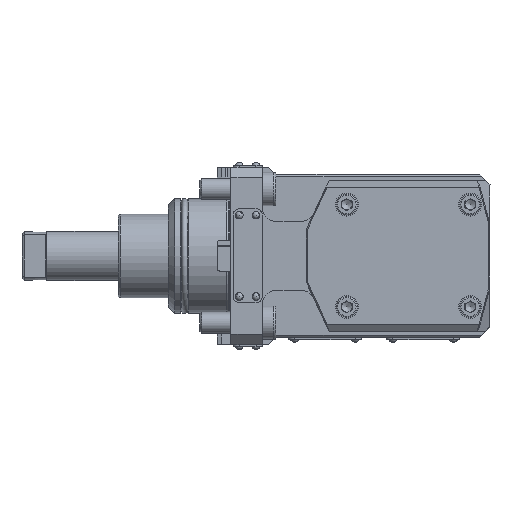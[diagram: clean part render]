
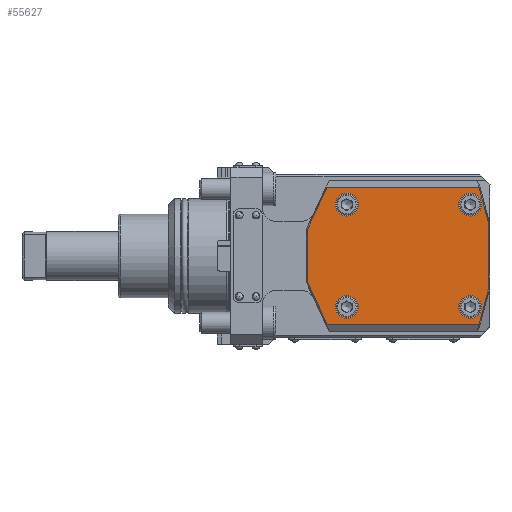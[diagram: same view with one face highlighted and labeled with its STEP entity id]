
A CAD part, top view. The second image highlights one B-rep face of the part: STEP entity #55627.
In plain terms, the highlighted planar face has unit normal (0, 0, 1).
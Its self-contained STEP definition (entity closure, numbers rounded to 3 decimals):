
#21947=VECTOR('',#36456,1.);
#21948=VECTOR('',#36457,1.);
#21949=VECTOR('',#36458,1.);
#21950=VECTOR('',#36459,1.);
#21951=VECTOR('',#36460,1.);
#21952=VECTOR('',#36461,1.);
#21953=VECTOR('',#36462,1.);
#21954=VECTOR('',#36463,1.);
#23282=LINE('',#40973,#21947);
#23283=LINE('',#40975,#21948);
#23284=LINE('',#40977,#21949);
#23285=LINE('',#40979,#21950);
#23286=LINE('',#40981,#21951);
#23287=LINE('',#40983,#21952);
#23288=LINE('',#40985,#21953);
#23289=LINE('',#40986,#21954);
#24617=PLANE('',#53834);
#25275=ORIENTED_EDGE('',*,*,#31728,.F.);
#25276=ORIENTED_EDGE('',*,*,#31729,.F.);
#25277=ORIENTED_EDGE('',*,*,#31730,.F.);
#25278=ORIENTED_EDGE('',*,*,#31731,.F.);
#25279=ORIENTED_EDGE('',*,*,#31732,.F.);
#25280=ORIENTED_EDGE('',*,*,#31733,.F.);
#25281=ORIENTED_EDGE('',*,*,#31734,.F.);
#25282=ORIENTED_EDGE('',*,*,#31735,.F.);
#25283=ORIENTED_EDGE('',*,*,#31726,.F.);
#25284=ORIENTED_EDGE('',*,*,#31736,.F.);
#25285=ORIENTED_EDGE('',*,*,#31737,.F.);
#25286=ORIENTED_EDGE('',*,*,#31738,.F.);
#29593=CIRCLE('',#53832,5.5);
#29595=CIRCLE('',#53835,5.5);
#29596=CIRCLE('',#53836,5.5);
#29597=CIRCLE('',#53837,5.5);
#30224=VERTEX_POINT('',#40966);
#30226=VERTEX_POINT('',#40971);
#30227=VERTEX_POINT('',#40972);
#30228=VERTEX_POINT('',#40974);
#30229=VERTEX_POINT('',#40976);
#30230=VERTEX_POINT('',#40978);
#30231=VERTEX_POINT('',#40980);
#30232=VERTEX_POINT('',#40982);
#30233=VERTEX_POINT('',#40984);
#30234=VERTEX_POINT('',#40987);
#30235=VERTEX_POINT('',#40989);
#30236=VERTEX_POINT('',#40991);
#31726=EDGE_CURVE('',#30224,#30224,#29593,.T.);
#31728=EDGE_CURVE('',#30226,#30227,#23282,.T.);
#31729=EDGE_CURVE('',#30228,#30226,#23283,.T.);
#31730=EDGE_CURVE('',#30229,#30228,#23284,.T.);
#31731=EDGE_CURVE('',#30230,#30229,#23285,.T.);
#31732=EDGE_CURVE('',#30231,#30230,#23286,.T.);
#31733=EDGE_CURVE('',#30232,#30231,#23287,.T.);
#31734=EDGE_CURVE('',#30233,#30232,#23288,.T.);
#31735=EDGE_CURVE('',#30227,#30233,#23289,.T.);
#31736=EDGE_CURVE('',#30234,#30234,#29595,.T.);
#31737=EDGE_CURVE('',#30235,#30235,#29596,.T.);
#31738=EDGE_CURVE('',#30236,#30236,#29597,.T.);
#33888=EDGE_LOOP('',(#25275,#25276,#25277,#25278,#25279,#25280,#25281,#25282));
#33889=EDGE_LOOP('',(#25283));
#33890=EDGE_LOOP('',(#25284));
#33891=EDGE_LOOP('',(#25285));
#33892=EDGE_LOOP('',(#25286));
#35162=FACE_BOUND('',#33888,.T.);
#35163=FACE_BOUND('',#33889,.T.);
#35164=FACE_BOUND('',#33890,.T.);
#35165=FACE_BOUND('',#33891,.T.);
#35166=FACE_BOUND('',#33892,.T.);
#36450=DIRECTION('',(0.,0.,1.));
#36451=DIRECTION('',(5.5,0.,0.));
#36454=DIRECTION('',(0.,0.,1.));
#36455=DIRECTION('',(0.,-1.,0.));
#36456=DIRECTION('',(72.709,0.,0.));
#36457=DIRECTION('',(9.524,20.425,0.));
#36458=DIRECTION('',(0.,24.599,0.));
#36459=DIRECTION('',(-9.524,20.425,0.));
#36460=DIRECTION('',(-72.709,0.,0.));
#36461=DIRECTION('',(-4.767,-17.79,0.));
#36462=DIRECTION('',(0.,-29.868,0.));
#36463=DIRECTION('',(4.767,-17.79,0.));
#36464=DIRECTION('',(0.,0.,1.));
#36465=DIRECTION('',(5.5,0.,0.));
#36466=DIRECTION('',(0.,0.,1.));
#36467=DIRECTION('',(5.5,0.,0.));
#36468=DIRECTION('',(0.,0.,1.));
#36469=DIRECTION('',(5.5,0.,0.));
#40966=CARTESIAN_POINT('',(120.,-24.5,61.));
#40967=CARTESIAN_POINT('',(114.5,-24.5,61.));
#40970=CARTESIAN_POINT('',(124.,-15.,61.));
#40971=CARTESIAN_POINT('',(46.024,32.724,61.));
#40972=CARTESIAN_POINT('',(118.733,32.724,61.));
#40973=CARTESIAN_POINT('',(46.024,32.724,61.));
#40974=CARTESIAN_POINT('',(36.5,12.3,61.));
#40975=CARTESIAN_POINT('',(36.5,12.3,61.));
#40976=CARTESIAN_POINT('',(36.5,-12.3,61.));
#40977=CARTESIAN_POINT('',(36.5,-12.3,61.));
#40978=CARTESIAN_POINT('',(46.024,-32.724,61.));
#40979=CARTESIAN_POINT('',(46.024,-32.724,61.));
#40980=CARTESIAN_POINT('',(118.733,-32.724,61.));
#40981=CARTESIAN_POINT('',(118.733,-32.724,61.));
#40982=CARTESIAN_POINT('',(123.5,-14.934,61.));
#40983=CARTESIAN_POINT('',(123.5,-14.934,61.));
#40984=CARTESIAN_POINT('',(123.5,14.934,61.));
#40985=CARTESIAN_POINT('',(123.5,14.934,61.));
#40986=CARTESIAN_POINT('',(118.733,32.724,61.));
#40987=CARTESIAN_POINT('',(120.,24.5,61.));
#40988=CARTESIAN_POINT('',(114.5,24.5,61.));
#40989=CARTESIAN_POINT('',(61.,-24.5,61.));
#40990=CARTESIAN_POINT('',(55.5,-24.5,61.));
#40991=CARTESIAN_POINT('',(61.,24.5,61.));
#40992=CARTESIAN_POINT('',(55.5,24.5,61.));
#53832=AXIS2_PLACEMENT_3D('',#40967,#36450,#36451);
#53834=AXIS2_PLACEMENT_3D('',#40970,#36454,#36455);
#53835=AXIS2_PLACEMENT_3D('',#40988,#36464,#36465);
#53836=AXIS2_PLACEMENT_3D('',#40990,#36466,#36467);
#53837=AXIS2_PLACEMENT_3D('',#40992,#36468,#36469);
#55627=ADVANCED_FACE('',(#35162,#35163,#35164,#35165,#35166),#24617,.T.);
